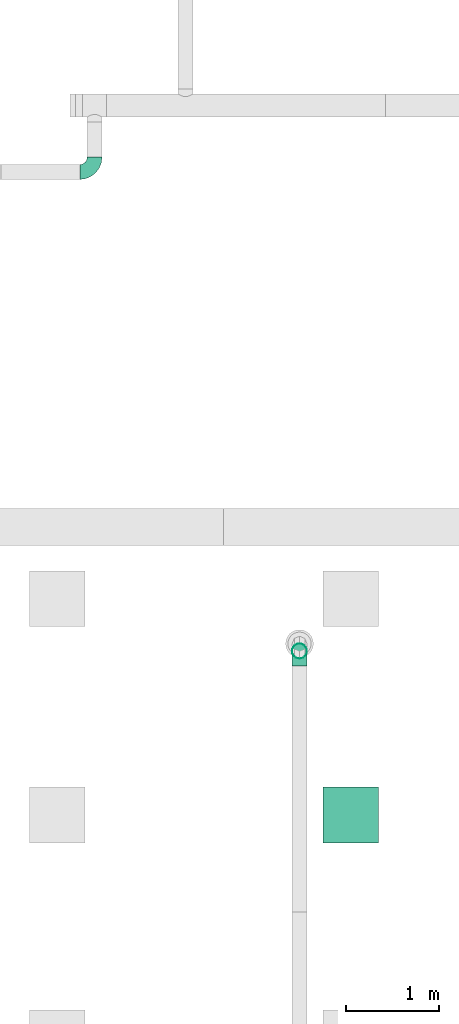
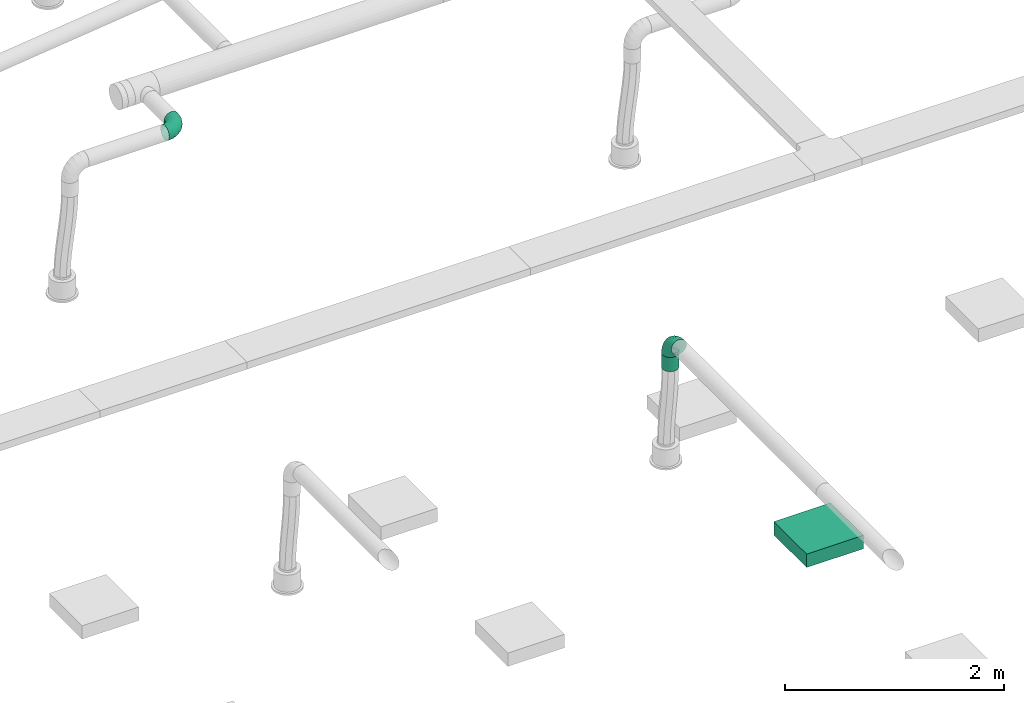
# One storey, part 33 of 374: 2 flow fittings, 1 distribution element, 1 flow segment.
"""IFC2X3 building model written with IfcOpenShell, lengths in metres."""

from ifc_helpers import new_model, si_unit, direction, frame, frame_2d, origin, place, context, subcontext, project, spatial, rectangle, extrude, open_shell, surface_model, source, transform, mapped, element, save


model = new_model("IFC2X3")

# Units and contexts
model_context = context("Model", 3, precision=1e-05, world=origin(), true_north=direction((-0.4480736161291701, 0.8939966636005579)))
body_context = subcontext(model_context, "Body", "Model", "MODEL_VIEW")
ifc_project = project(units=[si_unit("LENGTHUNIT", "METRE"), si_unit("AREAUNIT", "SQUARE_METRE"), si_unit("VOLUMEUNIT", "CUBIC_METRE"), si_unit("PLANEANGLEUNIT", "RADIAN"), si_unit("THERMODYNAMICTEMPERATUREUNIT", "KELVIN"), si_unit("MASSUNIT", "GRAM", prefix="KILO"), si_unit("TIMEUNIT", "SECOND")], contexts=[model_context])

# Site, building, storey
site_placement = place(None, origin())
site = spatial("IfcSite", under=ifc_project, at=site_placement, Name="Site 1", CompositionType="ELEMENT")
building_placement = place(site_placement, origin())
building = spatial("IfcBuilding", under=site, at=building_placement, Name="Undefined", CompositionType="ELEMENT")
storey_placement = place(building_placement, origin())
storey = spatial("IfcBuildingStorey", under=building, at=storey_placement, Name="Rez de chauss\x8ee", CompositionType="ELEMENT", Elevation=0.0)

# Flow fittings
shared_shape_1 = source(origin(), body_context, "Body", "SurfaceModel", [
    surface_model("IfcFaceBasedSurfaceModel", [(0.06265257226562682, -8.8817842e-16, 0.0), (0.062296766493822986, 0.02088115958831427, -7.105427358e-15), (0.0003558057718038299, 0.020881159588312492, 7.105427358e-15), (0.0, 0.0, 0.0), (-0.059474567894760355, 0.022956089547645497, -0.015896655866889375), (-0.06051773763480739, 0.002098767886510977, -0.01607928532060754), (-0.11311701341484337, 0.02696454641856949, -0.04660663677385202), (-0.11477645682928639, 0.006153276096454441, -0.04714207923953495), (-0.15691588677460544, 0.0326333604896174, -0.09003710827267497), (-0.15907851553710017, 0.01188721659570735, -0.09107150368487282), (-0.18788636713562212, 0.03957621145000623, -0.14322835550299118), (-0.1904048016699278, 0.01890983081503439, -0.14487384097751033), (-0.2039178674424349, 0.04731995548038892, -0.20255548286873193), (-0.20662048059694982, 0.026742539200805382, -0.20488255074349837), (0.061253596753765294, 0.04103889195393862, -0.0053597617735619), (0.0013989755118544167, 0.04103889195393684, -0.005359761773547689), (-0.05641614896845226, 0.04304393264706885, -0.02072097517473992), (-0.10825177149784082, 0.04691737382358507, -0.050396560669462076), (-0.15057538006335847, 0.05239524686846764, -0.09236417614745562), (-0.18050269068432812, 0.05910424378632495, -0.14376379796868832), (-0.19599420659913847, 0.06658715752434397, -0.20109262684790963), (0.05959415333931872, 0.05909948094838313, -0.01571402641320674), (0.003058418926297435, 0.05909948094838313, -0.01571402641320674), (-0.05155090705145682, 0.06099334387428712, -0.030223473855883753), (-0.10051228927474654, 0.06465200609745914, -0.058253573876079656), (-0.1404890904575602, 0.0698261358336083, -0.09789412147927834), (-0.16875695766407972, 0.0761631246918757, -0.14644367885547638), (-0.18338948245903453, 0.08323111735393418, -0.2005936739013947), (0.057431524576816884, 0.07383212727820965, -0.030357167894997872), (0.005221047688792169, 0.07383212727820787, -0.03035716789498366), (-0.0452104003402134, 0.07558110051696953, -0.04375657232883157), (-0.09042599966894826, 0.07895985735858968, -0.06964223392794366), (-0.12734438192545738, 0.08373814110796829, -0.10625008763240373), (-0.15344962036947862, 0.08959031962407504, -0.15108536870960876), (-0.16696268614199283, 0.0961175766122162, -0.20109262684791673), (0.054913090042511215, 0.0842328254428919, -0.048291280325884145), (0.007739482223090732, 0.08423282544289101, -0.04829128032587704), (-0.037826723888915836, 0.08581307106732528, -0.06039801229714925), (-0.07868026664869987, 0.08886587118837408, -0.08378642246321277), (-0.11203704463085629, 0.09318318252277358, -0.11686262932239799), (-0.13562384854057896, 0.09847078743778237, -0.1573725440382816), (-0.14783327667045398, 0.10436834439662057, -0.20255548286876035), (0.05221047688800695, 0.0895927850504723, -0.06829418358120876), (0.010442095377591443, 0.08959278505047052, -0.06829418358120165), (-0.029903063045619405, 0.09099196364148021, -0.07901370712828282), (-0.06607554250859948, 0.09369496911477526, -0.0997222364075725), (-0.0956102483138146, 0.0975175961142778, -0.12900851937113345), (-0.11649443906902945, 0.10219933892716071, -0.16487674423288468), (-0.12730489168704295, 0.1074211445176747, -0.2048825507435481), (0.04950786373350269, 0.08954673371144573, -0.08900271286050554), (0.013144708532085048, 0.08954673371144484, -0.08900271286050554), (-0.02197940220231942, 0.09076484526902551, -0.09833502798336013), (-0.05347081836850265, 0.09311805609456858, -0.11636367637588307), (-0.0791834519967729, 0.09644599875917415, -0.14186003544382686), (-0.09736502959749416, 0.10052187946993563, -0.17308657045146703), (-0.10677650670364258, 0.1050679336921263, -0.20791524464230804), (0.04698942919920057, 0.08409780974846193, -0.10900561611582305), (0.015663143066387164, 0.08409780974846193, -0.10900561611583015), (-0.014595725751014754, 0.08514719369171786, -0.11704525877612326), (-0.0417250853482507, 0.0871744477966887, -0.13257665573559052), (-0.06387611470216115, 0.09004141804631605, -0.15454136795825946), (-0.07953925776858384, 0.09355272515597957, -0.1814425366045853), (-0.08764709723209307, 0.09746907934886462, -0.21144689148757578), (0.04482680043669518, 0.0736173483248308, -0.12693972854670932), (0.017825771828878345, 0.0736173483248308, -0.12693972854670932), (-0.008255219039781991, 0.07452184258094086, -0.13386932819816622), (-0.03163879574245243, 0.0762691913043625, -0.14725628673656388), (-0.050731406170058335, 0.07874031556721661, -0.1661883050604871), (-0.06423192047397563, 0.08176681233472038, -0.18937519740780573), (-0.07122030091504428, 0.08514243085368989, -0.21523681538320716), (0.04316735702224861, 0.058819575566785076, -0.14158287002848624), (0.019485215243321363, 0.058819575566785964, -0.14158287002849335), (-0.0033899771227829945, 0.05961289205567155, -0.14766070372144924), (-0.02389931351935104, 0.06114546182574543, -0.15940217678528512), (-0.04064511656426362, 0.06331284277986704, -0.17600712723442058), (-0.052486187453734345, 0.06596733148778, -0.19634395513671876), (-0.05861557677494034, 0.06892802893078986, -0.2190267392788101), (0.04212418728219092, 0.040712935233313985, -0.15193713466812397), (0.020528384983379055, 0.040712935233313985, -0.15193713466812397), (-0.0003315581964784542, 0.041436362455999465, -0.15747952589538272), (-0.019034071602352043, 0.04283391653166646, -0.16818660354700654), (-0.03430460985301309, 0.04481035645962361, -0.1833286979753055), (-0.04510251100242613, 0.047230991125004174, -0.20187390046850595), (-0.05069191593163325, 0.04993085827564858, -0.22255838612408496), (0.04176838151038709, 0.02053136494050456, -0.15729689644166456), (0.020884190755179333, 0.02053136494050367, -0.15729689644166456), (0.0007116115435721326, 0.021230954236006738, -0.16265665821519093), (-0.017374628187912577, 0.022582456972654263, -0.17301092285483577), (-0.03214198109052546, 0.024493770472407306, -0.1876540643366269), (-0.042584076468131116, 0.026834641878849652, -0.20558817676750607), (-0.04798930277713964, 0.02944554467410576, -0.22559108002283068), (0.04212418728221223, -0.000349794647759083, -0.15729689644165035), (0.020528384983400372, -0.000349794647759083, -0.15729689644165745), (-0.0003315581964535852, 0.00037363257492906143, -0.1628392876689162), (-0.019034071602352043, 0.0017711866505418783, -0.17354636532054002), (-0.03430460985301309, 0.0037476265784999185, -0.18868845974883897), (-0.04510251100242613, 0.00616826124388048, -0.20723366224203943), (-0.05069191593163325, 0.008868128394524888, -0.22791814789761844), (0.04316735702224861, -0.020507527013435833, -0.15193713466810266), (0.019485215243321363, -0.020507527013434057, -0.15193713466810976), (-0.0033899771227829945, -0.019714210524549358, -0.15801496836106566), (-0.02389931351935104, -0.01818164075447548, -0.16975644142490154), (-0.04064511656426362, -0.01601425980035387, -0.186361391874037), (-0.052486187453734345, -0.013359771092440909, -0.20669821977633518), (-0.05861557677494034, -0.010399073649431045, -0.22938100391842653), (0.04482680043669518, -0.03856811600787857, -0.1415828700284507), (0.017825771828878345, -0.03856811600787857, -0.1415828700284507), (-0.008255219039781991, -0.03766362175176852, -0.1485124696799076), (-0.03163879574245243, -0.03591627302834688, -0.16189942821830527), (-0.050731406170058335, -0.03344514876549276, -0.1808314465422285), (-0.06423192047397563, -0.030418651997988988, -0.20401833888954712), (-0.07122030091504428, -0.027043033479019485, -0.22987995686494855), (0.04698942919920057, -0.05330076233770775, -0.12693972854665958), (0.015663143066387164, -0.05330076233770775, -0.12693972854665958), (-0.014595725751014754, -0.05225137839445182, -0.1349793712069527), (-0.0417250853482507, -0.05022412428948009, -0.15051076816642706), (-0.06387611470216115, -0.047357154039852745, -0.172475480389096), (-0.07953925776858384, -0.043845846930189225, -0.19937664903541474), (-0.08764709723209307, -0.03992949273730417, -0.2293810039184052), (0.04950786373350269, -0.06370146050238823, -0.10900561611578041), (0.013144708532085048, -0.06370146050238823, -0.10900561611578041), (-0.02197940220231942, -0.06248334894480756, -0.11833793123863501), (-0.05347081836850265, -0.06013013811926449, -0.13636657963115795), (-0.0791834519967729, -0.05680219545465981, -0.16186293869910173), (-0.09736502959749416, -0.05272631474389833, -0.1930894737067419), (-0.10677650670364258, -0.04818026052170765, -0.2279181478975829), (0.05221047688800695, -0.06906142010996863, -0.08900271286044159), (0.010442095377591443, -0.06906142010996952, -0.08900271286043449), (-0.029903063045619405, -0.06766224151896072, -0.09972223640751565), (-0.06607554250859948, -0.06495923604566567, -0.12043076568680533), (-0.0956102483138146, -0.06113660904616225, -0.14971704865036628), (-0.11649443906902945, -0.05645486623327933, -0.1855852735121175), (-0.12730489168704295, -0.05123306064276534, -0.22559108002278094), (0.054913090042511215, -0.06901536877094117, -0.06829418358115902), (0.007739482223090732, -0.06901536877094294, -0.06829418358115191), (-0.037826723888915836, -0.06743512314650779, -0.08040091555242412), (-0.07868026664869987, -0.06438232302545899, -0.10378932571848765), (-0.11203704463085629, -0.06006501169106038, -0.13686553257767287), (-0.13562384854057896, -0.0547774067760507, -0.17737544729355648), (-0.14783327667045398, -0.04887984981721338, -0.22255838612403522), (0.057431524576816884, -0.06356644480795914, -0.0482912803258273), (0.005221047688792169, -0.06356644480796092, -0.04829128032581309), (-0.0452104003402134, -0.061817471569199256, -0.0616906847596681), (-0.09042599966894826, -0.05843871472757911, -0.0875763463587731), (-0.12734438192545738, -0.05366043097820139, -0.12418420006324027), (-0.15344962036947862, -0.04780825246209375, -0.1690194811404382), (-0.16696268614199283, -0.041280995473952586, -0.21902673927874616), (0.05959415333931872, -0.05308598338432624, -0.030357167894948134), (0.003058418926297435, -0.05308598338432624, -0.030357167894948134), (-0.05155090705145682, -0.05119212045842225, -0.04486661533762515), (-0.10051228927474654, -0.04753345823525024, -0.07289671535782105), (-0.1404890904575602, -0.04235932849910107, -0.11253726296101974), (-0.16875695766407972, -0.03602233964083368, -0.16108682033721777), (-0.18338948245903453, -0.02895434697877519, -0.2152368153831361), (0.061253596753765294, -0.03828821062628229, -0.015714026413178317), (0.0013989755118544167, -0.03828821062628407, -0.015714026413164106), (-0.05641614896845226, -0.03628316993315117, -0.031075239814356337), (-0.10825177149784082, -0.03240972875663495, -0.06075082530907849), (-0.15057538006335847, -0.026931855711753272, -0.10271844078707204), (-0.18050269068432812, -0.02022285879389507, -0.15411806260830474), (-0.19599420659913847, -0.012739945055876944, -0.21144689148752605), (0.062296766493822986, -0.020181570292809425, -0.005359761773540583), (0.0003558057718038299, -0.020181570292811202, -0.0053597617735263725), (-0.059474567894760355, -0.018106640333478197, -0.021256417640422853), (-0.11311701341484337, -0.014098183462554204, -0.051966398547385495), (-0.15691588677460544, -0.00842936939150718, -0.09539687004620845), (-0.18788636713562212, -0.0014865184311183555, -0.14858811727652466), (-0.2039178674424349, 0.006257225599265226, -0.2079152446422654)], [open_shell([[[0, 1, 2, 3]], [[3, 2, 4, 5]], [[5, 4, 6, 7]], [[7, 6, 8, 9]], [[9, 8, 10, 11]], [[11, 10, 12, 13]], [[1, 14, 15, 2]], [[2, 15, 16, 4]], [[4, 16, 17, 6]], [[6, 17, 18, 8]], [[8, 18, 19, 10]], [[10, 19, 20, 12]], [[14, 21, 22, 15]], [[15, 22, 23, 16]], [[16, 23, 24, 17]], [[17, 24, 25, 18]], [[18, 25, 26, 19]], [[19, 26, 27, 20]], [[21, 28, 29, 22]], [[22, 29, 30, 23]], [[23, 30, 31, 24]], [[24, 31, 32, 25]], [[25, 32, 33, 26]], [[26, 33, 34, 27]], [[28, 35, 36, 29]], [[29, 36, 37, 30]], [[30, 37, 38, 31]], [[31, 38, 39, 32]], [[32, 39, 40, 33]], [[33, 40, 41, 34]], [[35, 42, 43, 36]], [[36, 43, 44, 37]], [[37, 44, 45, 38]], [[38, 45, 46, 39]], [[39, 46, 47, 40]], [[40, 47, 48, 41]], [[42, 49, 50, 43]], [[43, 50, 51, 44]], [[44, 51, 52, 45]], [[45, 52, 53, 46]], [[46, 53, 54, 47]], [[47, 54, 55, 48]], [[49, 56, 57, 50]], [[50, 57, 58, 51]], [[51, 58, 59, 52]], [[52, 59, 60, 53]], [[53, 60, 61, 54]], [[54, 61, 62, 55]], [[56, 63, 64, 57]], [[57, 64, 65, 58]], [[58, 65, 66, 59]], [[59, 66, 67, 60]], [[60, 67, 68, 61]], [[61, 68, 69, 62]], [[63, 70, 71, 64]], [[64, 71, 72, 65]], [[65, 72, 73, 66]], [[66, 73, 74, 67]], [[67, 74, 75, 68]], [[68, 75, 76, 69]], [[70, 77, 78, 71]], [[71, 78, 79, 72]], [[72, 79, 80, 73]], [[73, 80, 81, 74]], [[74, 81, 82, 75]], [[75, 82, 83, 76]], [[77, 84, 85, 78]], [[78, 85, 86, 79]], [[79, 86, 87, 80]], [[80, 87, 88, 81]], [[81, 88, 89, 82]], [[82, 89, 90, 83]], [[84, 91, 92, 85]], [[85, 92, 93, 86]], [[86, 93, 94, 87]], [[87, 94, 95, 88]], [[88, 95, 96, 89]], [[89, 96, 97, 90]], [[91, 98, 99, 92]], [[92, 99, 100, 93]], [[93, 100, 101, 94]], [[94, 101, 102, 95]], [[95, 102, 103, 96]], [[96, 103, 104, 97]], [[98, 105, 106, 99]], [[99, 106, 107, 100]], [[100, 107, 108, 101]], [[101, 108, 109, 102]], [[102, 109, 110, 103]], [[103, 110, 111, 104]], [[105, 112, 113, 106]], [[106, 113, 114, 107]], [[107, 114, 115, 108]], [[108, 115, 116, 109]], [[109, 116, 117, 110]], [[110, 117, 118, 111]], [[112, 119, 120, 113]], [[113, 120, 121, 114]], [[114, 121, 122, 115]], [[115, 122, 123, 116]], [[116, 123, 124, 117]], [[117, 124, 125, 118]], [[119, 126, 127, 120]], [[120, 127, 128, 121]], [[121, 128, 129, 122]], [[122, 129, 130, 123]], [[123, 130, 131, 124]], [[124, 131, 132, 125]], [[126, 133, 134, 127]], [[127, 134, 135, 128]], [[128, 135, 136, 129]], [[129, 136, 137, 130]], [[130, 137, 138, 131]], [[131, 138, 139, 132]], [[133, 140, 141, 134]], [[134, 141, 142, 135]], [[135, 142, 143, 136]], [[136, 143, 144, 137]], [[137, 144, 145, 138]], [[138, 145, 146, 139]], [[140, 147, 148, 141]], [[141, 148, 149, 142]], [[142, 149, 150, 143]], [[143, 150, 151, 144]], [[144, 151, 152, 145]], [[145, 152, 153, 146]], [[147, 154, 155, 148]], [[148, 155, 156, 149]], [[149, 156, 157, 150]], [[150, 157, 158, 151]], [[151, 158, 159, 152]], [[152, 159, 160, 153]], [[154, 161, 162, 155]], [[155, 162, 163, 156]], [[156, 163, 164, 157]], [[157, 164, 165, 158]], [[158, 165, 166, 159]], [[159, 166, 167, 160]], [[161, 0, 3, 162]], [[162, 3, 5, 163]], [[163, 5, 7, 164]], [[164, 7, 9, 165]], [[165, 9, 11, 166]], [[166, 11, 13, 167]]])]),
])
flow_fitting_1_placement = place(storey_placement, origin())
element("IfcFlowFitting", 1, at=flow_fitting_1_placement, inside=storey, Name="Coude", ObjectType="Coude", context=body_context, shape_type="MappedRepresentation", body=[
    mapped(shared_shape_1, transform((6.980053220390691, 16.947119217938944, 3.7021165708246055), x_axis=(0.0, 0.13052619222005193, -0.9914448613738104), y_axis=(-0.9915887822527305, -0.12832103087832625, -0.016893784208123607), z_axis=(-0.12942830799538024, 0.9831056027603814, 0.12942830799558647))),
])
flow_fitting_2_placement = place(storey_placement, origin())
element("IfcFlowFitting", 2, at=flow_fitting_2_placement, inside=storey, Name="Coude", ObjectType="Coude", context=body_context, shape_type="MappedRepresentation", body=[
    mapped(shared_shape_1, transform((4.847823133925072, 22.12712035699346, 3.8000000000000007), x_axis=(0.13052619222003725, 0.9914448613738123, 0.0), y_axis=(-0.12832103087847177, 0.016893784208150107, 0.9915887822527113), z_axis=(0.983105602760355, -0.12942830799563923, 0.12942830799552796))),
])

# Flow segment
shared_shape_2 = source(origin(), body_context, "Body", "SurfaceModel", [
    surface_model("IfcFaceBasedSurfaceModel", [(0.0, 0.020884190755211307, 0.0), (0.0, 0.0, 0.0), (0.16000000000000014, 0.0, -4.4408921e-16), (0.16000000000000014, 0.0208841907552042, -4.4408921e-16), (0.0, -0.020172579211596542, -0.005405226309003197), (0.16000000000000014, -0.020172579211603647, -0.005405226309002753), (0.0, -0.03825881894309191, -0.015847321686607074), (0.16000000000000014, -0.03825881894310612, -0.015847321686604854), (0.0, -0.05302617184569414, -0.0306146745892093), (0.16000000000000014, -0.05302617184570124, -0.03061467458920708), (0.0, -0.06346826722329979, -0.04870091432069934), (0.16000000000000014, -0.0634682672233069, -0.04870091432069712), (0.0, -0.06887349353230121, -0.06887349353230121), (0.16000000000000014, -0.06887349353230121, -0.06887349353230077), (0.0, -0.06887349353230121, -0.08975768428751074), (0.16000000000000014, -0.06887349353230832, -0.08975768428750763), (0.0, -0.06346826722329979, -0.10993026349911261), (0.16000000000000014, -0.0634682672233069, -0.10993026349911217), (0.0, -0.05302617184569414, -0.12801650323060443), (0.16000000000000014, -0.05302617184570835, -0.1280165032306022), (0.0, -0.038258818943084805, -0.14278385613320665), (0.16000000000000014, -0.03825881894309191, -0.14278385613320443), (0.0, -0.020172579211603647, -0.15322595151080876), (0.16000000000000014, -0.020172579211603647, -0.1532259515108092), (0.0, 7.105427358e-15, -0.15863117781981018), (0.16000000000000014, -7.105427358e-15, -0.15863117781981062), (0.0, 0.020884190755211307, -0.15863117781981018), (0.16000000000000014, 0.0208841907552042, -0.15863117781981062), (0.0, 0.04105676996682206, -0.15322595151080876), (0.16000000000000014, 0.04105676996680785, -0.1532259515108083), (0.0, 0.05914300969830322, -0.1427838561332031), (0.16000000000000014, 0.05914300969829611, -0.14278385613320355), (0.0, 0.07391036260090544, -0.12801650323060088), (0.16000000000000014, 0.07391036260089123, -0.1280165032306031), (0.0, 0.0843524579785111, -0.10993026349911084), (0.16000000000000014, 0.08435245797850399, -0.10993026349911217), (0.0, 0.08975768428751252, -0.08975768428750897), (0.16000000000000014, 0.08975768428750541, -0.08975768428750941), (0.0, 0.08975768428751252, -0.06887349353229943), (0.16000000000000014, 0.08975768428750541, -0.06887349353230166), (0.0, 0.0843524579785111, -0.048700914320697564), (0.16000000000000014, 0.08435245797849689, -0.04870091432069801), (0.0, 0.07391036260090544, -0.030614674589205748), (0.16000000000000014, 0.07391036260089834, -0.03061467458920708), (0.0, 0.05914300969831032, -0.015847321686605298), (0.16000000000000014, 0.05914300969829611, -0.01584732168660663), (0.0, 0.04105676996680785, -0.005405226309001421), (0.16000000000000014, 0.04105676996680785, -0.005405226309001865)], [open_shell([[[0, 1, 2, 3]], [[1, 4, 5, 2]], [[4, 6, 7, 5]], [[6, 8, 9, 7]], [[8, 10, 11, 9]], [[10, 12, 13, 11]], [[12, 14, 15, 13]], [[14, 16, 17, 15]], [[16, 18, 19, 17]], [[18, 20, 21, 19]], [[20, 22, 23, 21]], [[22, 24, 25, 23]], [[24, 26, 27, 25]], [[26, 28, 29, 27]], [[28, 30, 31, 29]], [[30, 32, 33, 31]], [[32, 34, 35, 33]], [[34, 36, 37, 35]], [[36, 38, 39, 37]], [[38, 40, 41, 39]], [[40, 42, 43, 41]], [[42, 44, 45, 43]], [[44, 46, 47, 45]], [[46, 0, 3, 47]]])]),
])
flow_segment_placement = place(storey_placement, origin())
element("IfcFlowSegment", 3, at=flow_segment_placement, inside=storey, Name="Tube", ObjectType="Tube", context=body_context, shape_type="MappedRepresentation", body=[
    mapped(shared_shape_2, transform((7.000758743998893, 16.798022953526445, 3.4800000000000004), x_axis=(0.0, 0.0, 1.0), y_axis=(-0.9914448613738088, -0.13052619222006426, 0.0), z_axis=(0.13052619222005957, -0.9914448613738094, 0.0))),
])

# Distribution element
distribution_element_placement = place(storey_placement, origin())
element("IfcDistributionElement", 4, at=distribution_element_placement, inside=storey, Name="Decken-Rechteckleuchte mit Rahmen AP", ObjectType="Decken-Rechteckleuchte mit Rahmen AP", context=body_context, shape_type="SweptSolid", body=[
    extrude(rectangle(XDim=0.6000000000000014, YDim=0.6000000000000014, at=frame_2d((3.552713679e-15, 0.0), x_axis=(0.0, 1.0))), frame((7.531229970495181, 15.1125, 2.5500000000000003), z_axis=(0.0, 0.0, -1.0), x_axis=(1.0, 0.0, 0.0)), (0.0, 0.0, 1.0), 0.15),
])

save(model, "model.ifc")
